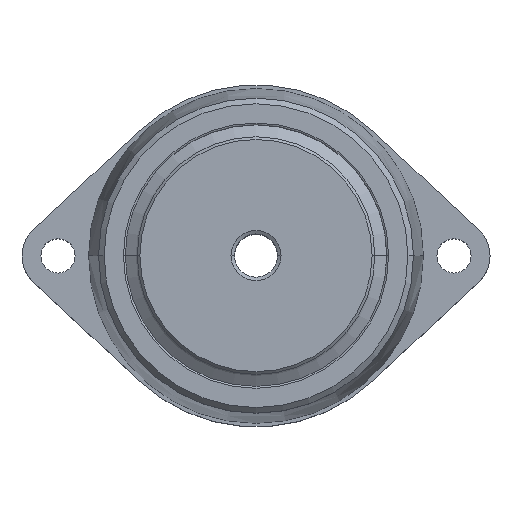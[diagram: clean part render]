
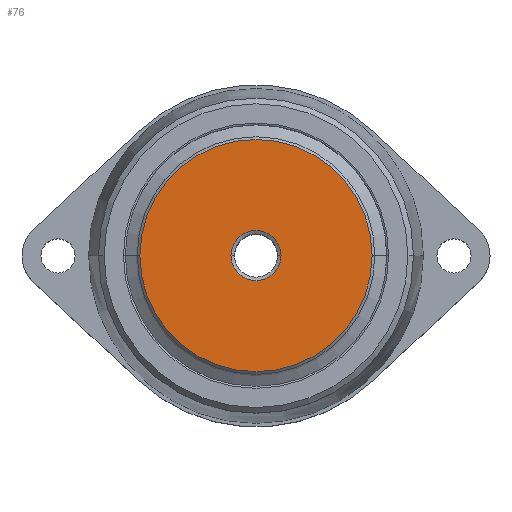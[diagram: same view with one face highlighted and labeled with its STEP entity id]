
A CAD part, top view. The second image highlights one B-rep face of the part: STEP entity #76.
In plain terms, the highlighted planar face has unit normal (0, 0, 1).
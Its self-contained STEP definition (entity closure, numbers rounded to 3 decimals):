
#76=ADVANCED_FACE('',(#173,#174),#175,.T.);
#173=FACE_BOUND('',#343,.T.);
#174=FACE_OUTER_BOUND('',#344,.T.);
#175=PLANE('',#345);
#343=EDGE_LOOP('',(#684,#685));
#344=EDGE_LOOP('',(#686,#687));
#345=AXIS2_PLACEMENT_3D('',#688,#689,#690);
#684=ORIENTED_EDGE('',*,*,#1115,.F.);
#685=ORIENTED_EDGE('',*,*,#1100,.F.);
#686=ORIENTED_EDGE('',*,*,#1104,.T.);
#687=ORIENTED_EDGE('',*,*,#1114,.T.);
#688=CARTESIAN_POINT('',(19.597,0.0,80.));
#689=DIRECTION('',(0.0,0.0,1.0));
#690=DIRECTION('',(1.0,0.0,0.0));
#1100=EDGE_CURVE('',#1490,#1488,#1492,.T.);
#1104=EDGE_CURVE('',#1494,#1498,#1500,.T.);
#1114=EDGE_CURVE('',#1498,#1494,#1514,.T.);
#1115=EDGE_CURVE('',#1488,#1490,#1515,.T.);
#1488=VERTEX_POINT('',#1804);
#1490=VERTEX_POINT('',#1807);
#1492=CIRCLE('',#1810,6.945);
#1494=VERTEX_POINT('',#1812);
#1498=VERTEX_POINT('',#1817);
#1500=CIRCLE('',#1820,32.25);
#1514=CIRCLE('',#1836,32.25);
#1515=CIRCLE('',#1837,6.945);
#1804=CARTESIAN_POINT('',(6.945,0.0,80.));
#1807=CARTESIAN_POINT('',(-6.945,0.,80.));
#1810=AXIS2_PLACEMENT_3D('',#2160,#2161,#2162);
#1812=CARTESIAN_POINT('',(32.25,0.0,80.));
#1817=CARTESIAN_POINT('',(-32.25,0.,80.));
#1820=AXIS2_PLACEMENT_3D('',#2168,#2169,#2170);
#1836=AXIS2_PLACEMENT_3D('',#2194,#2195,#2196);
#1837=AXIS2_PLACEMENT_3D('',#2197,#2198,#2199);
#2160=CARTESIAN_POINT('',(0.0,0.,80.));
#2161=DIRECTION('',(0.0,0.0,1.0));
#2162=DIRECTION('',(1.0,0.,0.0));
#2168=CARTESIAN_POINT('',(0.0,0.,80.));
#2169=DIRECTION('',(0.0,0.0,1.0));
#2170=DIRECTION('',(1.0,0.,0.0));
#2194=CARTESIAN_POINT('',(0.0,0.,80.));
#2195=DIRECTION('',(0.0,0.0,1.0));
#2196=DIRECTION('',(1.0,0.,0.0));
#2197=CARTESIAN_POINT('',(0.0,0.,80.));
#2198=DIRECTION('',(0.0,0.0,1.0));
#2199=DIRECTION('',(1.0,0.,0.0));
